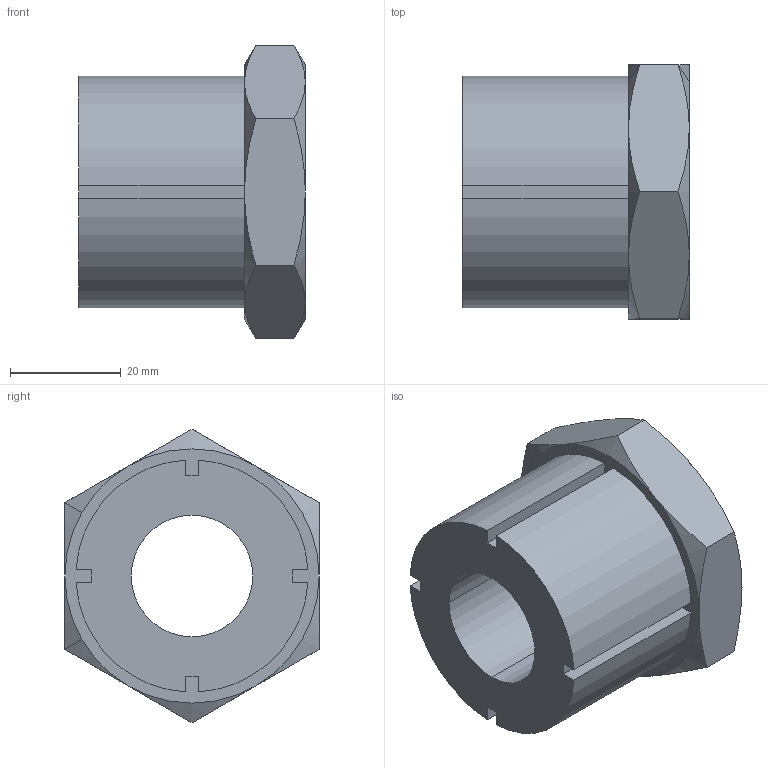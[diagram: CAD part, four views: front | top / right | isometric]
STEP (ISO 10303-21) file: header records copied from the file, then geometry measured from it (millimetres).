
FILE_DESCRIPTION((''),'2;1');
FILE_NAME('C:\WIXROYD\Positioning\3840\3840W022.stp','2003-01-09T15:39:17',('Administrator'),(''),'Autodesk Inventor (tm) 5.0','Autodesk Inventor (tm) 5.0','');
FILE_SCHEMA(('CONFIG_CONTROL_DESIGN'));
Length unit declared in the file: millimetre
Products named in the file (1): 3840W022
Bounding box: 41 x 46 x 53.12 mm (x, y, z)
Volume: 45154.2 mm3; surface area: 11942.2 mm2
Topology: 1 solids, 1 shells, 45 faces, 110 edges, 68 vertices
Faces by surface type: plane 21, cone 16, cylinder 8
Entity records: 1383 total; most frequent: CARTESIAN_POINT 272, ORIENTED_EDGE 220, DIRECTION 210, EDGE_CURVE 110, AXIS2_PLACEMENT_3D 78, VERTEX_POINT 68, VECTOR 54, LINE 54
